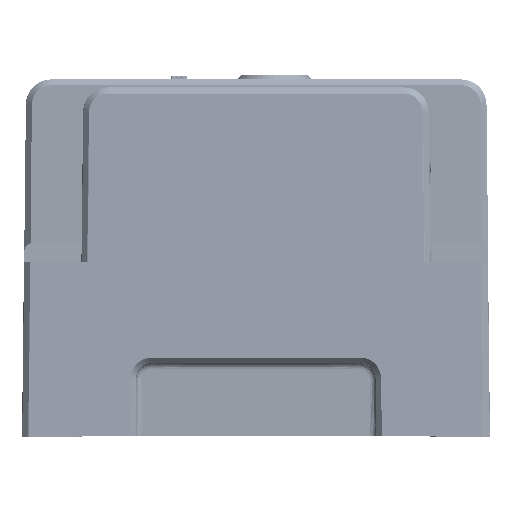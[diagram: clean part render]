
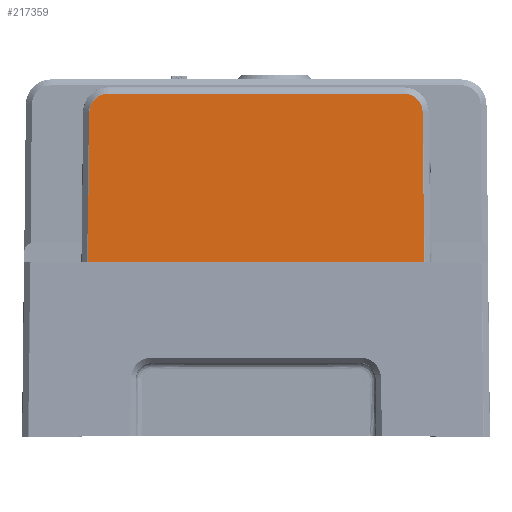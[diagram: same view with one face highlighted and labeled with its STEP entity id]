
A CAD part, left-side view. The second image highlights one B-rep face of the part: STEP entity #217359.
In plain terms, the highlighted planar face has unit normal (-1, 0, 0.004).
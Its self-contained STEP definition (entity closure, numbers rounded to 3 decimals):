
#742 = CARTESIAN_POINT ( 'NONE',  ( -138.365, 103.64, 156.499 ) ) ;
#26202 = VERTEX_POINT ( 'NONE', #326290 ) ;
#38319 = PLANE ( 'NONE',  #141120 ) ;
#52765 = VERTEX_POINT ( 'NONE', #70914 ) ;
#61220 = ORIENTED_EDGE ( 'NONE', *, *, #73298, .T. ) ;
#69965 = CARTESIAN_POINT ( 'NONE',  ( -138.343, 96.54, 162.076 ) ) ;
#70914 = CARTESIAN_POINT ( 'NONE',  ( -138.341, 93.481, 162.456 ) ) ;
#73298 = EDGE_CURVE ( 'NONE', #408118, #52765, #237509, .T. ) ;
#102407 = CARTESIAN_POINT ( 'NONE',  ( -138.341, 95.006, 162.414 ) ) ;
#106402 = CARTESIAN_POINT ( 'NONE',  ( -138.36, -102.856, 157.729 ) ) ;
#127576 = ORIENTED_EDGE ( 'NONE', *, *, #154050, .T. ) ;
#131437 = CARTESIAN_POINT ( 'NONE',  ( -138.763, -0.015, 56.455 ) ) ;
#141021 = CARTESIAN_POINT ( 'NONE',  ( -138.376, -104.859, 153.625 ) ) ;
#141120 = AXIS2_PLACEMENT_3D ( 'NONE', #367211, #172455, #233103 ) ;
#143165 = CARTESIAN_POINT ( 'NONE',  ( -138.347, -99.709, 160.987 ) ) ;
#154050 = EDGE_CURVE ( 'NONE', #311373, #408118, #160150, .T. ) ;
#158582 = VERTEX_POINT ( 'NONE', #192628 ) ;
#160150 = B_SPLINE_CURVE_WITH_KNOTS ( 'NONE', 3,
 ( #205969, #340046, #141021, #307590, #106402, #143165, #275142, #374638 ),
 .UNSPECIFIED., .F., .F.,
 ( 4, 2, 2, 4 ),
 ( 0., 0.25, 0.5, 1. ),
 .UNSPECIFIED. ) ;
#161758 = ORIENTED_EDGE ( 'NONE', *, *, #374122, .T. ) ;
#167850 = EDGE_CURVE ( 'NONE', #26202, #158582, #261330, .T. ) ;
#169485 = CARTESIAN_POINT ( 'NONE',  ( -138.376, 104.82, 153.662 ) ) ;
#172455 = DIRECTION ( 'NONE',  ( -1., 0., 0.004 ) ) ;
#172687 = CARTESIAN_POINT ( 'NONE',  ( -138.334, 105.01, 164.254 ) ) ;
#192628 = CARTESIAN_POINT ( 'NONE',  ( -138.763, -106.232, 56.455 ) ) ;
#195903 = VECTOR ( 'NONE', #362942, 1000. ) ;
#199833 = CARTESIAN_POINT ( 'NONE',  ( -138.347, 99.337, 160.859 ) ) ;
#201970 = CARTESIAN_POINT ( 'NONE',  ( -138.388, 105.157, 150.603 ) ) ;
#205969 = CARTESIAN_POINT ( 'NONE',  ( -138.388, -105.186, 150.603 ) ) ;
#217359 = ADVANCED_FACE ( 'NONE', ( #399686 ), #38319, .T. ) ;
#218146 = LINE ( 'NONE', #406560, #418172 ) ;
#220540 = VECTOR ( 'NONE', #424289, 1000. ) ;
#233103 = DIRECTION ( 'NONE',  ( 0., 1., 0. ) ) ;
#233198 = ORIENTED_EDGE ( 'NONE', *, *, #419225, .T. ) ;
#237509 = LINE ( 'NONE', #369473, #220540 ) ;
#242123 = DIRECTION ( 'NONE',  ( 0.004, 0.011, 1. ) ) ;
#261062 = CARTESIAN_POINT ( 'NONE',  ( -138.388, -105.186, 150.603 ) ) ;
#261330 = LINE ( 'NONE', #131437, #195903 ) ;
#264739 = CARTESIAN_POINT ( 'NONE',  ( -138.351, 100.631, 159.975 ) ) ;
#274299 = B_SPLINE_CURVE_WITH_KNOTS ( 'NONE', 3,
 ( #295047, #102407, #69965, #199833, #264739, #396706, #742, #169485, #331793, #201970 ),
 .UNSPECIFIED., .F., .F.,
 ( 4, 2, 2, 2, 4 ),
 ( 0., 0.25, 0.5, 0.75, 1. ),
 .UNSPECIFIED. ) ;
#275142 = CARTESIAN_POINT ( 'NONE',  ( -138.342, -96.759, 162.325 ) ) ;
#281405 = ORIENTED_EDGE ( 'NONE', *, *, #167850, .T. ) ;
#281912 = CARTESIAN_POINT ( 'NONE',  ( -138.341, -93.703, 162.456 ) ) ;
#295047 = CARTESIAN_POINT ( 'NONE',  ( -138.341, 93.481, 162.456 ) ) ;
#304635 = DIRECTION ( 'NONE',  ( -0.004, 0.011, -1. ) ) ;
#307590 = CARTESIAN_POINT ( 'NONE',  ( -138.365, -103.699, 156.435 ) ) ;
#311373 = VERTEX_POINT ( 'NONE', #261062 ) ;
#318133 = CARTESIAN_POINT ( 'NONE',  ( -138.388, 105.157, 150.603 ) ) ;
#318657 = ORIENTED_EDGE ( 'NONE', *, *, #399966, .T. ) ;
#326290 = CARTESIAN_POINT ( 'NONE',  ( -138.763, 106.208, 56.455 ) ) ;
#331793 = CARTESIAN_POINT ( 'NONE',  ( -138.382, 105.134, 152.15 ) ) ;
#337107 = LINE ( 'NONE', #172687, #409258 ) ;
#340046 = CARTESIAN_POINT ( 'NONE',  ( -138.382, -105.175, 152.133 ) ) ;
#362942 = DIRECTION ( 'NONE',  ( 0., -1., 0. ) ) ;
#367211 = CARTESIAN_POINT ( 'NONE',  ( -138.339, -0.015, 163.087 ) ) ;
#369473 = CARTESIAN_POINT ( 'NONE',  ( -138.341, -0.015, 162.456 ) ) ;
#374122 = EDGE_CURVE ( 'NONE', #52765, #424499, #274299, .T. ) ;
#374638 = CARTESIAN_POINT ( 'NONE',  ( -138.341, -93.703, 162.456 ) ) ;
#388403 = EDGE_LOOP ( 'NONE', ( #281405, #233198, #127576, #61220, #161758, #318657 ) ) ;
#396706 = CARTESIAN_POINT ( 'NONE',  ( -138.36, 102.775, 157.795 ) ) ;
#399686 = FACE_OUTER_BOUND ( 'NONE', #388403, .T. ) ;
#399966 = EDGE_CURVE ( 'NONE', #424499, #26202, #337107, .T. ) ;
#406560 = CARTESIAN_POINT ( 'NONE',  ( -138.334, -105.034, 164.254 ) ) ;
#408118 = VERTEX_POINT ( 'NONE', #281912 ) ;
#409258 = VECTOR ( 'NONE', #304635, 1000. ) ;
#418172 = VECTOR ( 'NONE', #242123, 1000. ) ;
#419225 = EDGE_CURVE ( 'NONE', #158582, #311373, #218146, .T. ) ;
#424289 = DIRECTION ( 'NONE',  ( 0., 1., 0. ) ) ;
#424499 = VERTEX_POINT ( 'NONE', #318133 ) ;
